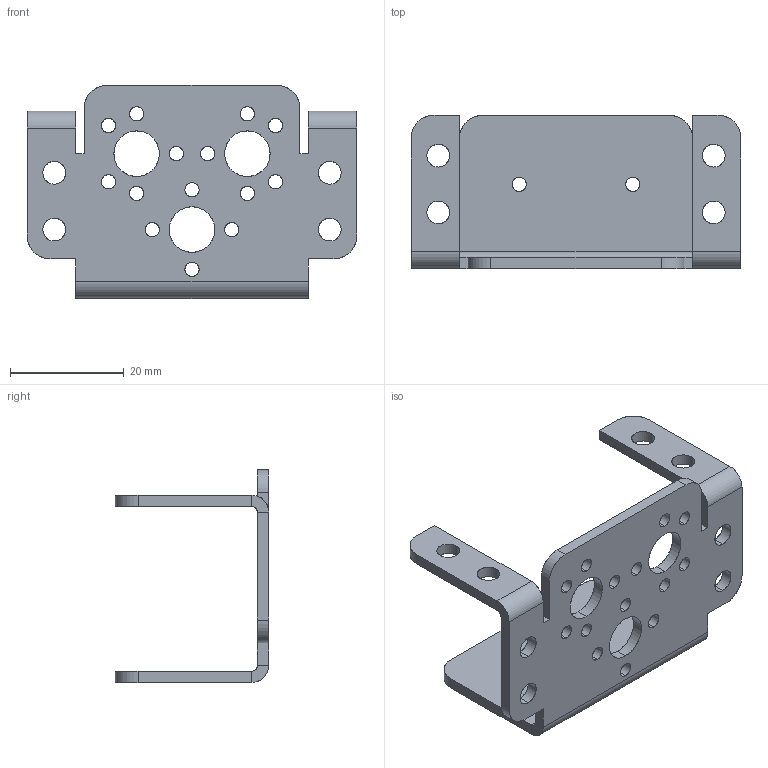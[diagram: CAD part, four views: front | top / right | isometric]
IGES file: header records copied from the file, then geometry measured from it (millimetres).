
Start section: SolidWorks IGES file using analytic representation for surfaces
Global section: file name: D:\Autres\Projets\CAO\Servo Brackets\Multi Purpose Bracket.IGS; native system: SolidWorks 2015; preprocessor: SolidWorks 2015; author: Hendricks; date: 150615.051052; units: millimetre
Bounding box: 58 x 27 x 37.5 mm (x, y, z)
Surface area: 7280.2 mm2 (no closed solid volume)
Topology: 0 solids, 0 shells, 104 faces, 2380 edges, 2380 vertices
Faces by surface type: revolution 68, bspline 36
